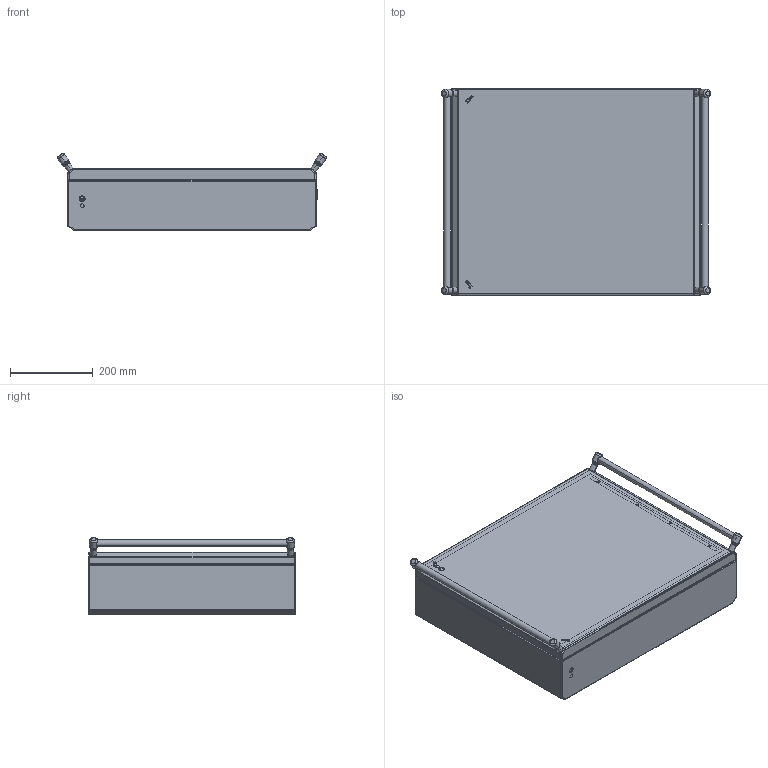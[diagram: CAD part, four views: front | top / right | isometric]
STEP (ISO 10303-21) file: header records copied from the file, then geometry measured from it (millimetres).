
FILE_DESCRIPTION (( 'STEP AP203' ), '1' );
FILE_NAME ('BK65AM-COM.step', '2023-09-19T13:20:08', ( '' ), ( '' ), 'SwSTEP 2.0', 'SolidWorks 2021', '' );
FILE_SCHEMA (( 'CONFIG_CONTROL_DESIGN' ));
Length unit declared in the file: millimetre
Products named in the file (21):  SG215S^Assiemi Box serie BK33-BK75M_Chiusura_BASSO; 1000-24^1000-u183_ SG215S_Assiemi Box serie BK33-BK75M; Parte7^ SG215S_Assiemi Box serie BK33-BK75M; Piastra di rinforzo Fasciame per BK65-BK65M_PRFABK65-BK65M; 1000-u183^ SG215S_Assiemi Box serie BK33-BK75M; Porte Box BK33-BK75M_POBK65M;  1000-U134^ SG215S_Assiemi Box serie BK33-BK75M; 1000-277-01PI^1000-u183_ SG215S_Assiemi Box serie BK33-BK75M; Tubo maniglia Box BK H300-H550_TMBK500; OLD-ADMT_ADMT; 1000-101-GPF_GPD_1^ 1000-U134_ SG215S_Assiemi Box serie BK33-BK75M; 1000-03-PG^1000-u183_ SG215S_Assiemi Box serie BK33-BK75M; Staffa Serraggio Box BK_SSBKH500; BK65AM-COM; PRM615TL316; Fasciame FABK33- FABK75M_FABK65; 1000-156-01^1000-u183_ SG215S_Assiemi Box serie BK33-BK75M; LOGO_ILINOX; Guarnizione Schiumata 13x6.5_GBK65-GBK65M; 1000-02-RA_1^ 1000-U134_ SG215S_Assiemi Box serie BK33-BK75M; Scarpetta Box serie BK
Assembly tree (26 placements, depth 4):
  BK65AM-COM
    Fasciame FABK33- FABK75M_FABK65
    Porte Box BK33-BK75M_POBK65M
    Guarnizione Schiumata 13x6.5_GBK65-GBK65M
    Staffa Serraggio Box BK_SSBKH500
    Scarpetta Box serie BK
    Tubo maniglia Box BK H300-H550_TMBK500  x2
    Piastra di rinforzo Fasciame per BK65-BK65M_PRFABK65-BK65M
     SG215S^Assiemi Box serie BK33-BK75M_Chiusura_BASSO
       1000-U134^ SG215S_Assiemi Box serie BK33-BK75M
        1000-101-GPF_GPD_1^ 1000-U134_ SG215S_Assiemi Box serie BK33-BK75M
        1000-02-RA_1^ 1000-U134_ SG215S_Assiemi Box serie BK33-BK75M
      1000-u183^ SG215S_Assiemi Box serie BK33-BK75M
        1000-156-01^1000-u183_ SG215S_Assiemi Box serie BK33-BK75M
        1000-03-PG^1000-u183_ SG215S_Assiemi Box serie BK33-BK75M
        1000-24^1000-u183_ SG215S_Assiemi Box serie BK33-BK75M
        1000-277-01PI^1000-u183_ SG215S_Assiemi Box serie BK33-BK75M
      Parte7^ SG215S_Assiemi Box serie BK33-BK75M
    OLD-ADMT_ADMT  x2
    LOGO_ILINOX  x2
    PRM615TL316  x4
Bounding box: 649.31 x 500 x 186.07 mm (x, y, z)
Volume: 1959648.3 mm3; surface area: 2238996.3 mm2
Topology: 48 solids, 55 shells, 1299 faces, 3021 edges, 1838 vertices
Faces by surface type: plane 622, cylinder 460, cone 72, torus 64, sphere 50, bspline 31
Entity records: 35490 total; most frequent: CARTESIAN_POINT 8405, DIRECTION 5443, ORIENTED_EDGE 4919, EDGE_CURVE 2463, AXIS2_PLACEMENT_3D 2066, VERTEX_POINT 1520, VECTOR 1311, LINE 1311
